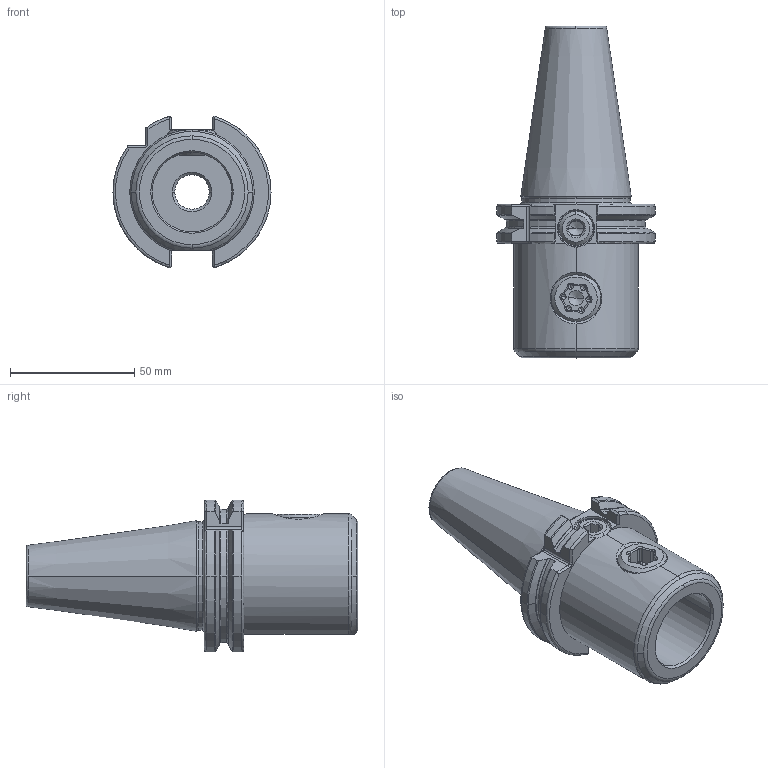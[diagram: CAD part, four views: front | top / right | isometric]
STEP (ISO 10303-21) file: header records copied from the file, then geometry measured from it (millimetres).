
FILE_DESCRIPTION (( 'STEP AP214' ), '1' );
FILE_NAME ('04-0525.STEP', '2022-02-02T19:17:34', ( '' ), ( '' ), 'SwSTEP 2.0', 'SolidWorks 2021', '' );
FILE_SCHEMA (( 'AUTOMOTIVE_DESIGN' ));
Length unit declared in the file: inch
Products named in the file (1): 04-0525
Bounding box: 63.55 x 133.4 x 61.05 mm (x, y, z)
Volume: 132396.2 mm3; surface area: 34347 mm2
Topology: 1 solids, 1 shells, 274 faces, 734 edges, 445 vertices
Faces by surface type: cone 82, plane 74, cylinder 70, torus 30, bspline 18
Entity records: 13739 total; most frequent: CARTESIAN_POINT 3652, ORIENTED_EDGE 1412, DIRECTION 1323, EDGE_CURVE 706, AXIS2_PLACEMENT_3D 521, VERTEX_POINT 445, EDGE_LOOP 287, VECTOR 281
